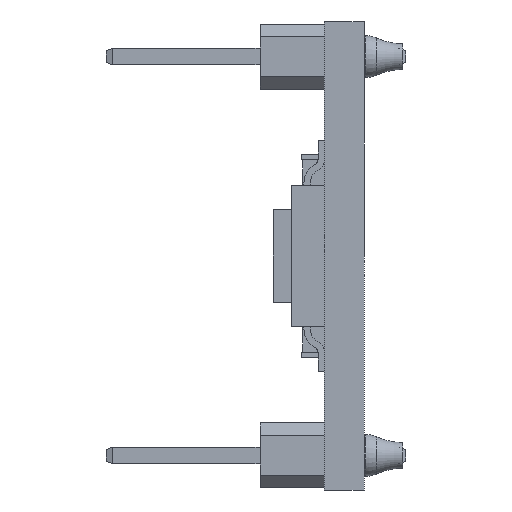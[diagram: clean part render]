
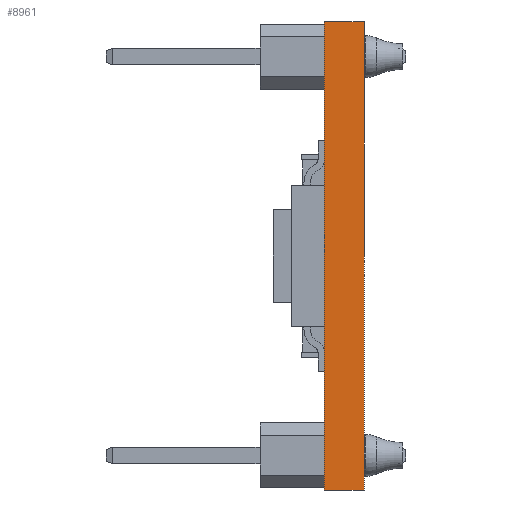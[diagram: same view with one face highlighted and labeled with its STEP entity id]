
A CAD part, left-side view. The second image highlights one B-rep face of the part: STEP entity #8961.
In plain terms, the highlighted planar face has unit normal (-1, 0, 0).
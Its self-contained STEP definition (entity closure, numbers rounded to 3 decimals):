
#992 = CARTESIAN_POINT ( 'NONE',  ( -10.5, 0., -9.125 ) ) ;
#2526 = VERTEX_POINT ( 'NONE', #14628 ) ;
#3428 = FACE_OUTER_BOUND ( 'NONE', #30871, .T. ) ;
#4312 = VERTEX_POINT ( 'NONE', #12390 ) ;
#4810 = ORIENTED_EDGE ( 'NONE', *, *, #35028, .T. ) ;
#6449 = VECTOR ( 'NONE', #37530, 1000. ) ;
#7828 = EDGE_CURVE ( 'NONE', #14670, #4312, #22381, .T. ) ;
#8961 = ADVANCED_FACE ( 'NONE', ( #3428 ), #36620, .F. ) ;
#9798 = CARTESIAN_POINT ( 'NONE',  ( -10.5, 1.55, -9.125 ) ) ;
#9920 = VECTOR ( 'NONE', #35055, 1000. ) ;
#10880 = CARTESIAN_POINT ( 'NONE',  ( -10.5, 1.55, 9.125 ) ) ;
#12216 = AXIS2_PLACEMENT_3D ( 'NONE', #29130, #22437, #35000 ) ;
#12390 = CARTESIAN_POINT ( 'NONE',  ( -10.5, 0., -9.125 ) ) ;
#14628 = CARTESIAN_POINT ( 'NONE',  ( -10.5, 1.55, 9.125 ) ) ;
#14637 = CARTESIAN_POINT ( 'NONE',  ( -10.5, 0., 9.125 ) ) ;
#14670 = VERTEX_POINT ( 'NONE', #9798 ) ;
#15450 = ORIENTED_EDGE ( 'NONE', *, *, #34827, .F. ) ;
#19203 = LINE ( 'NONE', #992, #6449 ) ;
#22381 = LINE ( 'NONE', #34739, #32011 ) ;
#22437 = DIRECTION ( 'NONE',  ( 1., 0., 0. ) ) ;
#22892 = DIRECTION ( 'NONE',  ( 0., -1., 0. ) ) ;
#25602 = EDGE_CURVE ( 'NONE', #14670, #2526, #29583, .T. ) ;
#26134 = CARTESIAN_POINT ( 'NONE',  ( -10.5, 1.55, -9.125 ) ) ;
#26338 = LINE ( 'NONE', #10880, #37867 ) ;
#27015 = ORIENTED_EDGE ( 'NONE', *, *, #7828, .T. ) ;
#29130 = CARTESIAN_POINT ( 'NONE',  ( -10.5, 1.55, -9.125 ) ) ;
#29583 = LINE ( 'NONE', #26134, #9920 ) ;
#30662 = ORIENTED_EDGE ( 'NONE', *, *, #25602, .F. ) ;
#30871 = EDGE_LOOP ( 'NONE', ( #4810, #15450, #30662, #27015 ) ) ;
#31958 = VERTEX_POINT ( 'NONE', #14637 ) ;
#32011 = VECTOR ( 'NONE', #34343, 1000. ) ;
#34343 = DIRECTION ( 'NONE',  ( 0., -1., 0. ) ) ;
#34739 = CARTESIAN_POINT ( 'NONE',  ( -10.5, 1.55, -9.125 ) ) ;
#34827 = EDGE_CURVE ( 'NONE', #2526, #31958, #26338, .T. ) ;
#35000 = DIRECTION ( 'NONE',  ( 0., 0., -1. ) ) ;
#35028 = EDGE_CURVE ( 'NONE', #4312, #31958, #19203, .T. ) ;
#35055 = DIRECTION ( 'NONE',  ( 0., 0., 1. ) ) ;
#36620 = PLANE ( 'NONE',  #12216 ) ;
#37530 = DIRECTION ( 'NONE',  ( 0., 0., 1. ) ) ;
#37867 = VECTOR ( 'NONE', #22892, 1000. ) ;
